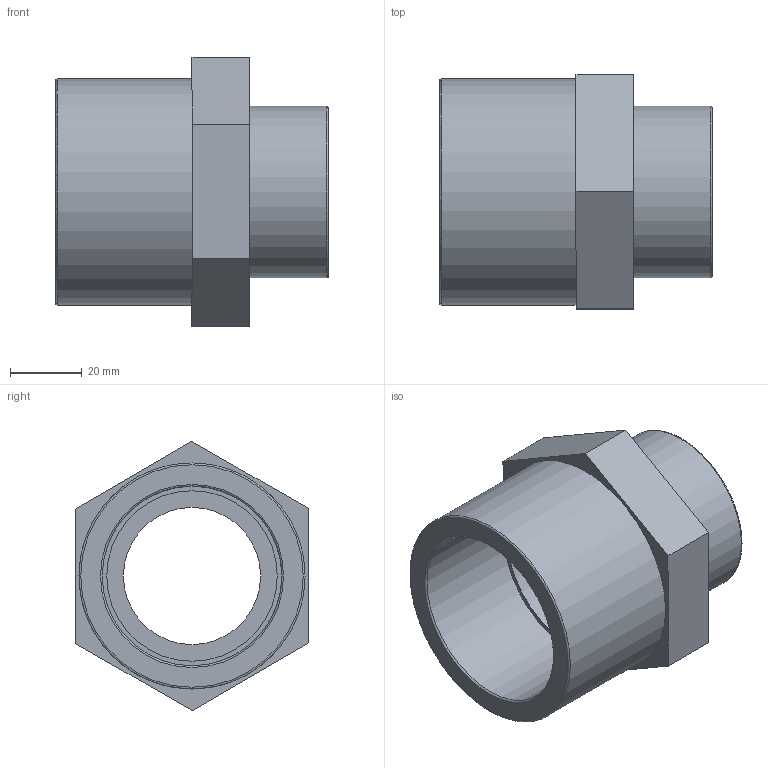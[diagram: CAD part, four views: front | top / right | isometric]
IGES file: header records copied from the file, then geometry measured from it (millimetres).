
Global section: file name: 052102050015.ipt; native system: Autodesk Inventor 2015; preprocessor: unknown; author: KIM; date: 20171207.165401; units: millimetre
Bounding box: 76 x 65.14 x 75.06 mm (x, y, z)
Volume: 92296.8 mm3; surface area: 30130.8 mm2
Topology: 1 solids, 1 shells, 21 faces, 55 edges, 40 vertices
Faces by surface type: plane 12, revolution 7, cylinder 2
Full cylindrical faces by diameter (mm): 47.803 x1, 63 x1
